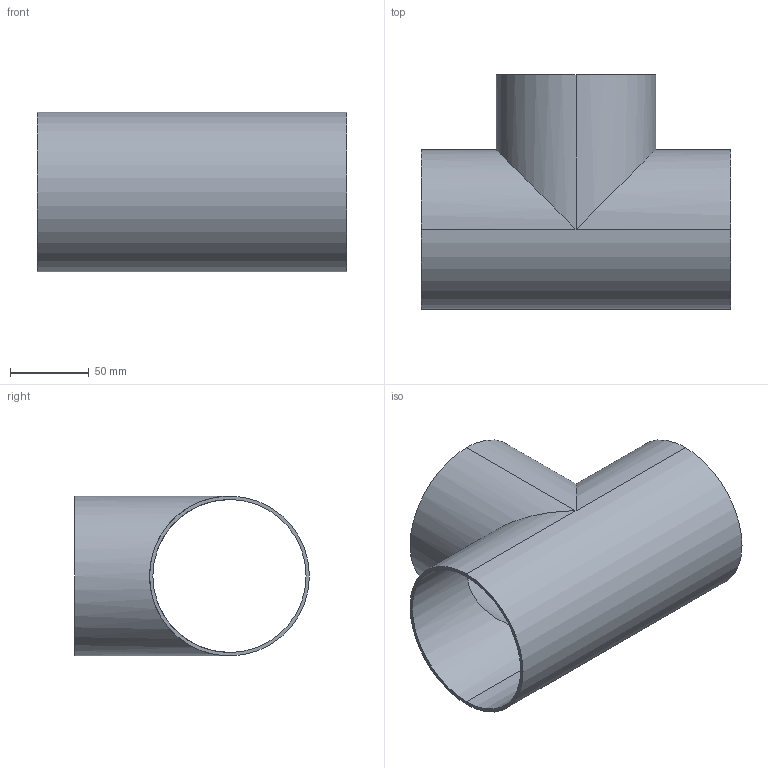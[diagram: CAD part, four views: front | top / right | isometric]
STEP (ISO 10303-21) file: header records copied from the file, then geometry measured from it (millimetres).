
FILE_DESCRIPTION (( 'STEP AP203' ), '1' );
FILE_NAME ('V7W4.0.STEP', '2018-05-11T15:10:37', ( 'vneprd' ), ( 'Microsoft' ), 'SwSTEP 2.0', 'SolidWorks 2014', '' );
FILE_SCHEMA (( 'CONFIG_CONTROL_DESIGN' ));
Length unit declared in the file: inch
Products named in the file (1): V7W4.0
Bounding box: 196.85 x 149.22 x 101.6 mm (x, y, z)
Volume: 152827.1 mm3; surface area: 146948.5 mm2
Topology: 1 solids, 1 shells, 13 faces, 28 edges, 16 vertices
Faces by surface type: cylinder 10, plane 3
Entity records: 437 total; most frequent: CARTESIAN_POINT 70, DIRECTION 64, ORIENTED_EDGE 56, EDGE_CURVE 28, AXIS2_PLACEMENT_3D 26, EDGE_LOOP 16, VERTEX_POINT 16, ADVANCED_FACE 13
